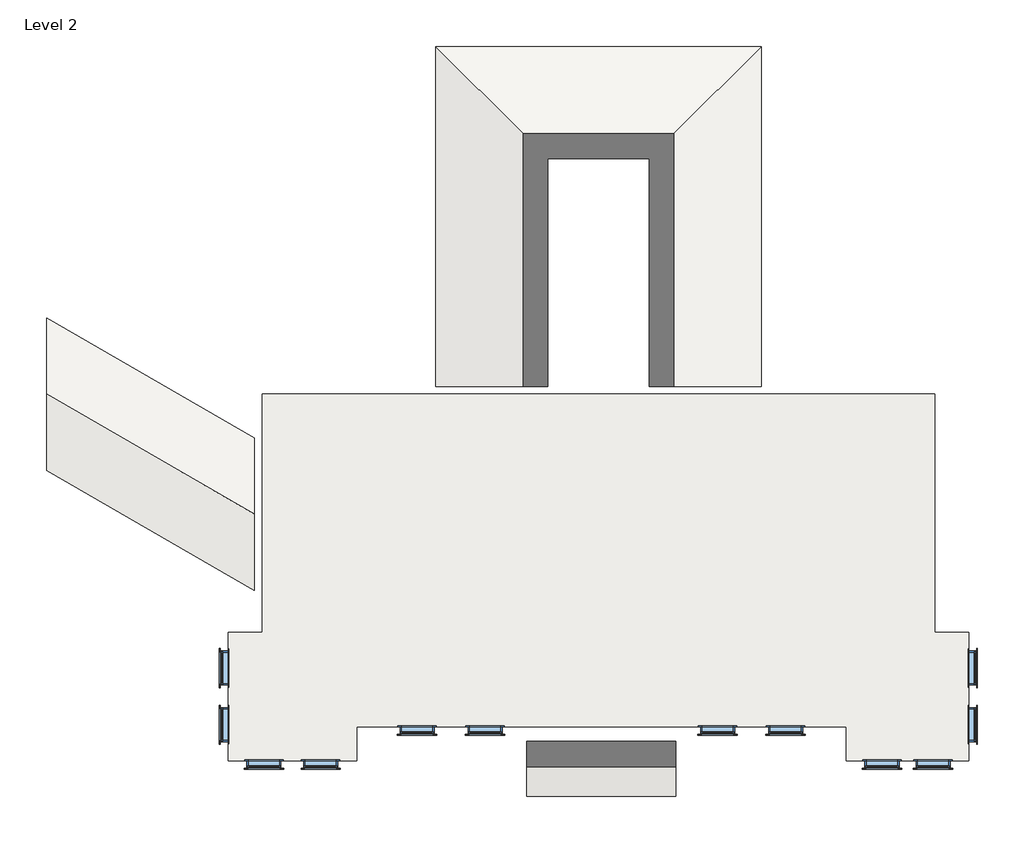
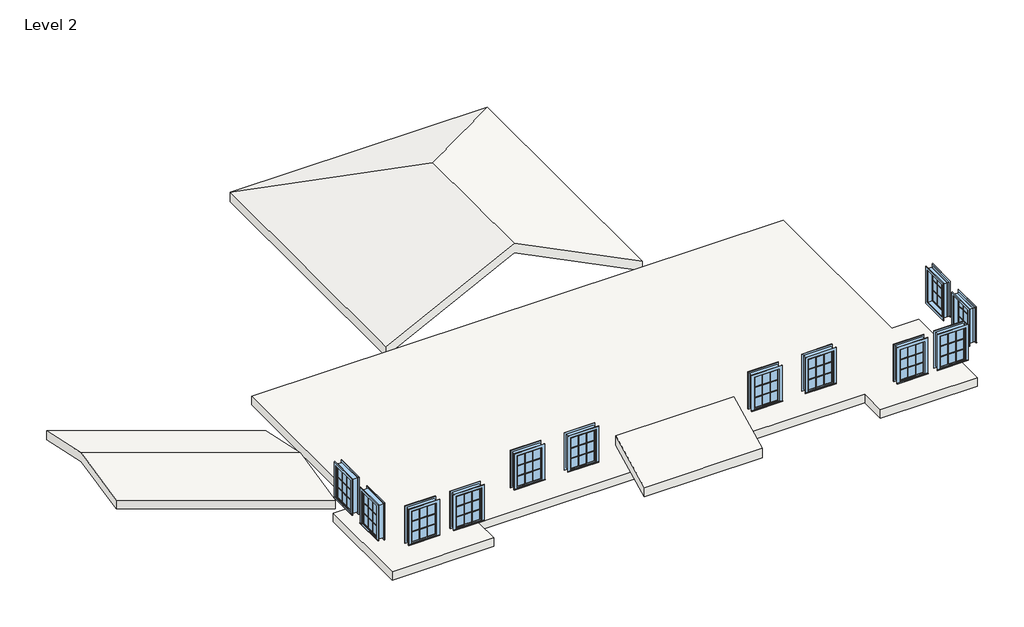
# One storey: 12 windows, 3 roofs, 1 slab.
"""IFC4 building model written with IfcOpenShell, lengths in millimetres."""

from ifc_helpers import new_model, si_unit, frame, origin, place, context, project, spatial, polyline, outline, extrude, faceted_brep, transform, mapped, element, save
from components import casement_3x3_with_trim_29c06734

model = new_model("IFC4")

# Units and contexts
model_context = context("Model", 3, world=origin())
ifc_project = project(units=[si_unit("LENGTHUNIT", "METRE", prefix="MILLI")], contexts=[model_context])

# Site, building, storey
site = spatial("IfcSite", under=ifc_project)
building = spatial("IfcBuilding", under=site)
storey = spatial("IfcBuildingStorey", under=building, Name="Level 2", Elevation=3505.2)

# Roofs
placement = place(None, origin())
element("IfcRoof", 1, ObjectType="Generic - 12\"", at=placement, inside=storey, context=model_context, shape_type="Brep", body=[
    faceted_brep([(-176487.3354666, 12797.5236302, 3505.2), (-176487.3354666, 14850.5811875, 3048.0), (-182075.3354666, 18076.8144917, 3048.0), (-182075.3354666, 16023.7569345, 3505.2), (-176487.3354666, 10744.466073, 3048.0), (-182075.3354666, 13970.6993772, 3048.0), (-176487.3354666, 10744.466073, 2733.284229), (-182075.3354666, 13970.6993772, 2733.284229), (-176487.3354666, 12797.5236302, 3190.484229), (-182075.3354666, 16023.7569345, 3190.484229), (-176487.3354666, 14850.5811875, 2733.284229), (-182075.3354666, 18076.8144917, 2733.284229)], [[[0, 1, 2, 3]], [[4, 0, 3, 5]], [[6, 4, 5, 7]], [[8, 6, 7, 9]], [[10, 8, 9, 11]], [[1, 10, 11, 2]], [[2, 11, 9, 7, 5, 3]], [[1, 0, 4, 6, 8, 10]]]),
])
element("IfcRoof", 2, ObjectType="Generic - 12\"", at=placement, inside=storey, context=model_context, shape_type="Brep", body=[
    faceted_brep([(-167241.7354666, 16229.4757393, 5384.8), (-171610.5354666, 16229.4757393, 3200.4), (-171610.5354666, 25373.4757393, 3200.4), (-167241.7354666, 21004.6757393, 5384.8), (-162872.9354666, 16229.4757393, 3200.4), (-162872.9354666, 25373.4757393, 3200.4), (-171610.5354666, 16229.4757393, 3541.1767598), (-167241.7354666, 16229.4757393, 5725.5767598), (-167241.7354666, 21004.6757393, 5725.5767598), (-171610.5354666, 25373.4757393, 3541.1767598), (-162872.9354666, 16229.4757393, 3541.1767598), (-162872.9354666, 25373.4757393, 3541.1767598)], [[[0, 1, 2, 3]], [[4, 0, 3, 5]], [[5, 3, 2]], [[6, 7, 8, 9]], [[10, 11, 8, 7]], [[11, 9, 8]], [[5, 11, 10, 4]], [[2, 9, 11, 5]], [[1, 6, 9, 2]], [[10, 7, 6, 1, 0, 4]]]),
])
element("IfcRoof", 3, ObjectType="Generic - 12\"", at=placement, inside=storey, context=model_context, shape_type="SweptSolid", body=[
    extrude(outline(polyline([(5205.8757393, 4303.1767598), (6882.2757393, 5141.3767598), (6882.2757393, 4800.6), (5205.8757393, 3962.4), (5205.8757393, 4303.1767598)])), frame((-169172.1354666, 0.0, 0.0), z_axis=(1.0, 0.0, 0.0), x_axis=(0.0, 1.0, 0.0)), (0.0, 0.0, 1.0), 4013.2),
])

# Slab
element("IfcSlab", 4, ObjectType="Generic - 12\"", at=placement, inside=storey, context=model_context, shape_type="SweptSolid", body=[
    extrude(outline(polyline([(-177198.5354666, 9625.4757393), (-176284.1354666, 9625.4757393), (-176284.1354666, 16026.2757393), (-158199.3354666, 16026.2757393), (-158199.3354666, 9625.4757393), (-157284.9354666, 9625.4757393), (-157284.9354666, 6171.0757393), (-160586.9354666, 6171.0757393), (-160586.9354666, 7085.4757393), (-173744.1354666, 7085.4757393), (-173744.1354666, 6171.0757393), (-177198.5354666, 6171.0757393), (-177198.5354666, 9625.4757393)])), frame((0.0, 0.0, 3200.4), z_axis=(0.0, 0.0, 1.0), x_axis=(1.0, 0.0, 0.0)), (0.0, 0.0, 1.0), 304.8),
])

# Windows
casement_3x3_with_trim_shape = casement_3x3_with_trim_29c06734(model_context)
element("IfcWindow", 5, ObjectType="Casement 3x3 with Trim : 36\"w x 48\"h", at=placement, inside=storey, context=model_context, shape_type="MappedRepresentation", body=[
    mapped(casement_3x3_with_trim_shape, transform((-176233.3354666, 6069.4757393, 3505.2), x_axis=(-1.0, 0.0, 0.0), y_axis=(0.0, -1.0, 0.0), z_axis=(0.0, 0.0, 1.0))),
])
element("IfcWindow", 6, ObjectType="Casement 3x3 with Trim : 36\"w x 48\"h", at=placement, inside=storey, context=model_context, shape_type="MappedRepresentation", body=[
    mapped(casement_3x3_with_trim_shape, transform((-174709.3354666, 6069.4757393, 3505.2), x_axis=(-1.0, 0.0, 0.0), y_axis=(0.0, -1.0, 0.0), z_axis=(0.0, 0.0, 1.0))),
])
element("IfcWindow", 7, ObjectType="Casement 3x3 with Trim : 36\"w x 48\"h", at=placement, inside=storey, context=model_context, shape_type="MappedRepresentation", body=[
    mapped(casement_3x3_with_trim_shape, transform((-172118.5354666, 6983.8757393, 3505.2), x_axis=(-1.0, 0.0, 0.0), y_axis=(0.0, -1.0, 0.0), z_axis=(0.0, 0.0, 1.0))),
])
element("IfcWindow", 8, ObjectType="Casement 3x3 with Trim : 36\"w x 48\"h", at=placement, inside=storey, context=model_context, shape_type="MappedRepresentation", body=[
    mapped(casement_3x3_with_trim_shape, transform((-170289.7354666, 6983.8757393, 3505.2), x_axis=(-1.0, 0.0, 0.0), y_axis=(0.0, -1.0, 0.0), z_axis=(0.0, 0.0, 1.0))),
])
element("IfcWindow", 9, ObjectType="Casement 3x3 with Trim : 36\"w x 48\"h", at=placement, inside=storey, context=model_context, shape_type="MappedRepresentation", body=[
    mapped(casement_3x3_with_trim_shape, transform((-164041.3354666, 6983.8757393, 3505.2), x_axis=(-1.0, 0.0, 0.0), y_axis=(0.0, -1.0, 0.0), z_axis=(0.0, 0.0, 1.0))),
])
element("IfcWindow", 10, ObjectType="Casement 3x3 with Trim : 36\"w x 48\"h", at=placement, inside=storey, context=model_context, shape_type="MappedRepresentation", body=[
    mapped(casement_3x3_with_trim_shape, transform((-162212.5354666, 6983.8757393, 3505.2), x_axis=(-1.0, 0.0, 0.0), y_axis=(0.0, -1.0, 0.0), z_axis=(0.0, 0.0, 1.0))),
])
element("IfcWindow", 11, ObjectType="Casement 3x3 with Trim : 36\"w x 48\"h", at=placement, inside=storey, context=model_context, shape_type="MappedRepresentation", body=[
    mapped(casement_3x3_with_trim_shape, transform((-159621.7354666, 6069.4757393, 3505.2), x_axis=(-1.0, 0.0, 0.0), y_axis=(0.0, -1.0, 0.0), z_axis=(0.0, 0.0, 1.0))),
])
element("IfcWindow", 12, ObjectType="Casement 3x3 with Trim : 36\"w x 48\"h", at=placement, inside=storey, context=model_context, shape_type="MappedRepresentation", body=[
    mapped(casement_3x3_with_trim_shape, transform((-158250.1354666, 6069.4757393, 3505.2), x_axis=(-1.0, 0.0, 0.0), y_axis=(0.0, -1.0, 0.0), z_axis=(0.0, 0.0, 1.0))),
])
element("IfcWindow", 13, ObjectType="Casement 3x3 with Trim : 36\"w x 48\"h", at=placement, inside=storey, context=model_context, shape_type="MappedRepresentation", body=[
    mapped(casement_3x3_with_trim_shape, transform((-157183.3354666, 7136.2757393, 3505.2), x_axis=(0.0, -1.0, 0.0), y_axis=(1.0, 0.0, 0.0), z_axis=(0.0, 0.0, 1.0))),
])
element("IfcWindow", 14, ObjectType="Casement 3x3 with Trim : 36\"w x 48\"h", at=placement, inside=storey, context=model_context, shape_type="MappedRepresentation", body=[
    mapped(casement_3x3_with_trim_shape, transform((-157183.3354666, 8660.2757393, 3505.2), x_axis=(0.0, -1.0, 0.0), y_axis=(1.0, 0.0, 0.0), z_axis=(0.0, 0.0, 1.0))),
])
element("IfcWindow", 15, ObjectType="Casement 3x3 with Trim : 36\"w x 48\"h", at=placement, inside=storey, context=model_context, shape_type="MappedRepresentation", body=[
    mapped(casement_3x3_with_trim_shape, transform((-177300.1354666, 7136.2757393, 3505.2), x_axis=(0.0, 1.0, 0.0), y_axis=(-1.0, 0.0, 0.0), z_axis=(0.0, 0.0, 1.0))),
])
element("IfcWindow", 16, ObjectType="Casement 3x3 with Trim : 36\"w x 48\"h", at=placement, inside=storey, context=model_context, shape_type="MappedRepresentation", body=[
    mapped(casement_3x3_with_trim_shape, transform((-177300.1354666, 8660.2757393, 3505.2), x_axis=(0.0, 1.0, 0.0), y_axis=(-1.0, 0.0, 0.0), z_axis=(0.0, 0.0, 1.0))),
])

save(model, "model.ifc")
